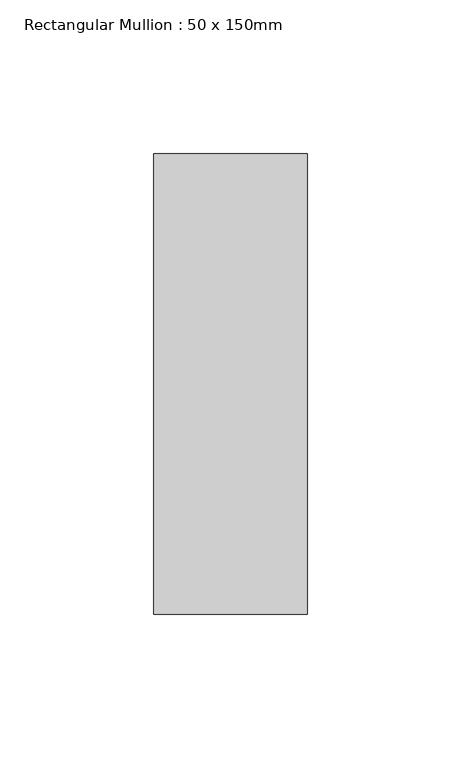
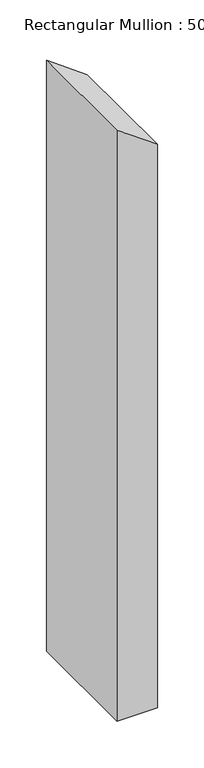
"""IFC4 building model written with IfcOpenShell, lengths in millimetres: member geometry, Rectangular Mullion : 50 x 150mm."""

from ifc_helpers import new_model, si_unit, frame, origin, place, context, project, spatial, polyline, outline, extrude, source, transform, mapped, element, save


def rectangular_mullion_50_x_150mm_feba3820(model_context):
    return source(origin(), model_context, "Body", "SweptSolid", [
        extrude(outline(polyline([(-79.9669621, 25.0), (-43.6398357, -25.0), (-814.3808665, -25.0), (-814.3808665, 25.0), (-79.9669621, 25.0)])), frame((0.0, -75.0, 0.0), z_axis=(0.0, 1.0, 0.0), x_axis=(0.0, 0.0, 1.0)), (0.0, 0.0, 1.0), 150.0),
    ])


if __name__ == "__main__":
    model = new_model("IFC4")
    model_context = context("Model", 3, world=origin())
    ifc_project = project(units=[si_unit("LENGTHUNIT", "METRE", prefix="MILLI")], contexts=[model_context])
    site = spatial("IfcSite", under=ifc_project)
    building = spatial("IfcBuilding", under=site)
    placement = place(None, origin())
    rectangular_mullion_50_x_150mm_shape = rectangular_mullion_50_x_150mm_feba3820(model_context)
    element("IfcMember", 1, ObjectType="Rectangular Mullion : 50 x 150mm", at=placement, inside=building, context=model_context, shape_type="MappedRepresentation", body=[
        mapped(rectangular_mullion_50_x_150mm_shape, transform((0.0, 0.0, 0.0), x_axis=(1.0, 0.0, 0.0), y_axis=(0.0, 1.0, 0.0), z_axis=(0.0, 0.0, 1.0))),
    ])
    save(model, "model.ifc")
